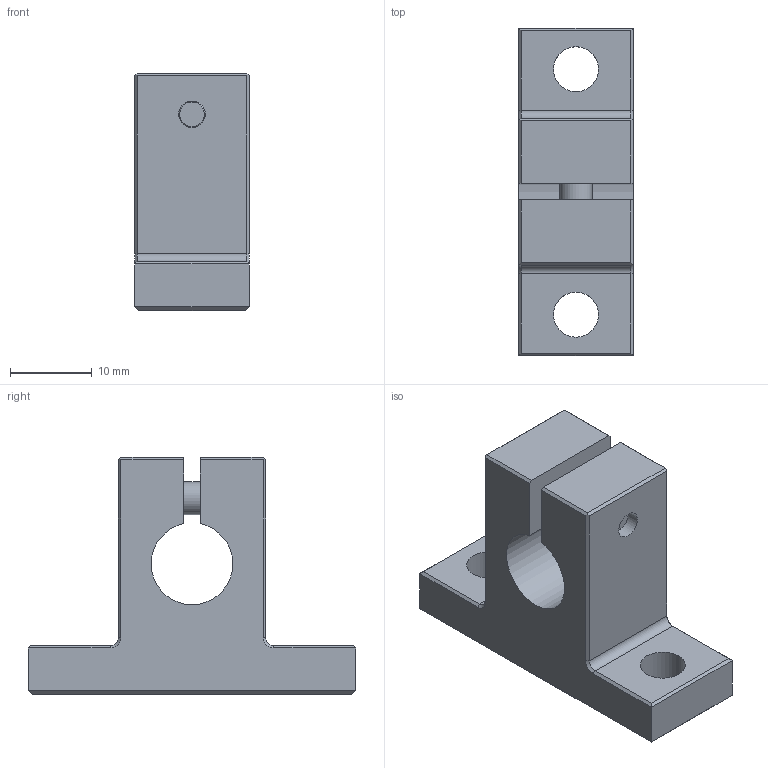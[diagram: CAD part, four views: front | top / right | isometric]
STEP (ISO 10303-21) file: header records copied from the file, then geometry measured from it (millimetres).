
FILE_DESCRIPTION((''),'2;1');
FILE_NAME('D:\製品 (図面)\カタログ用3D\シャフトブロック関連\STEP形式\SHA\SHA10.stp','2010-06-01T16:35:40',('Tsuchiya'),(''),'Autodesk Inventor 10','Autodesk Inventor 10','');
FILE_SCHEMA(('AUTOMOTIVE_DESIGN { 1 0 10303 214 1 1 1 1 }'));
Length unit declared in the file: millimetre
Products named in the file (1): SHA10
Bounding box: 14 x 40 x 29 mm (x, y, z)
Volume: 7446.8 mm3; surface area: 4027.9 mm2
Topology: 1 solids, 1 shells, 60 faces, 147 edges, 93 vertices
Faces by surface type: plane 42, cylinder 7, cone 6, bspline 4, torus 1
Full cylindrical faces by diameter (mm): 4 x1, 5.5 x2, 7 x1
Entity records: 1710 total; most frequent: CARTESIAN_POINT 347, DIRECTION 266, ORIENTED_EDGE 264, EDGE_CURVE 132, VECTOR 100, LINE 100, VERTEX_POINT 88, AXIS2_PLACEMENT_3D 83
